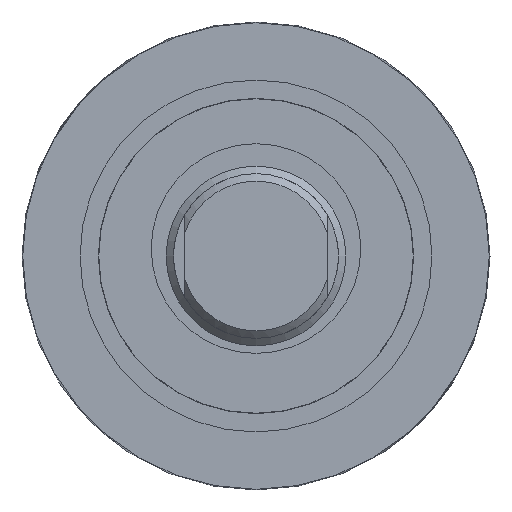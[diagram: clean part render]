
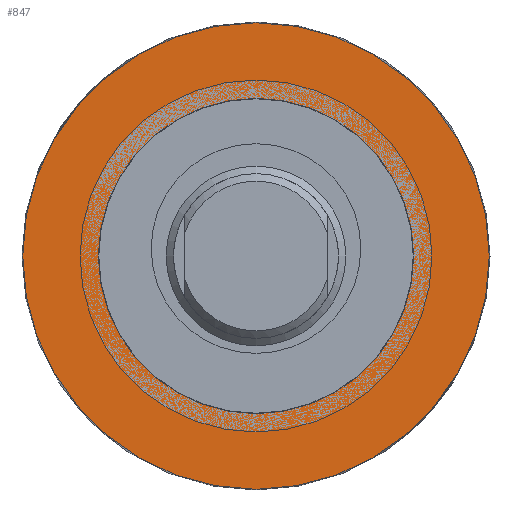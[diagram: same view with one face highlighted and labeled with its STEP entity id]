
A CAD part, left-side view. The second image highlights one B-rep face of the part: STEP entity #847.
In plain terms, the highlighted planar face has unit normal (-1, 0, 0).
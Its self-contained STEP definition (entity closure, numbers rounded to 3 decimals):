
#152=FACE_OUTER_BOUND('',#208,.T.);
#208=EDGE_LOOP('',(#623));
#271=CIRCLE('',#956,31.15);
#355=VERTEX_POINT('',#1476);
#454=EDGE_CURVE('',#355,#355,#271,.T.);
#623=ORIENTED_EDGE('',*,*,#454,.T.);
#747=PLANE('',#955);
#847=ADVANCED_FACE('',(#152),#747,.T.);
#955=AXIS2_PLACEMENT_3D('',#1475,#1151,#1152);
#956=AXIS2_PLACEMENT_3D('',#1477,#1153,#1154);
#1151=DIRECTION('center_axis',(-1.,0.,0.));
#1152=DIRECTION('ref_axis',(0.,0.,-1.));
#1153=DIRECTION('center_axis',(-1.,0.,0.));
#1154=DIRECTION('ref_axis',(0.,0.,1.));
#1475=CARTESIAN_POINT('Origin',(56.95,-27.325,0.));
#1476=CARTESIAN_POINT('',(56.95,0.,-31.15));
#1477=CARTESIAN_POINT('Origin',(56.95,0.,0.));
